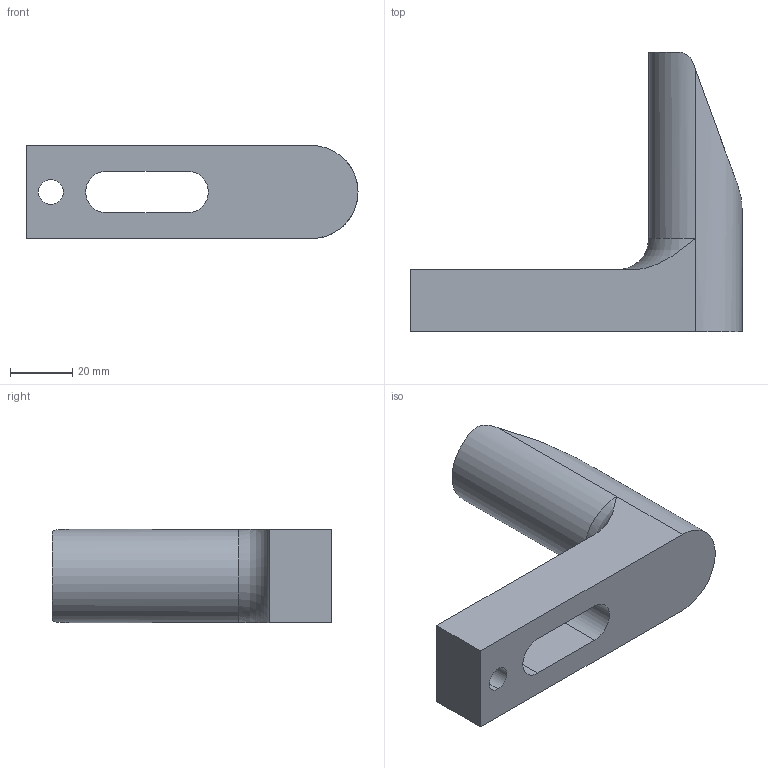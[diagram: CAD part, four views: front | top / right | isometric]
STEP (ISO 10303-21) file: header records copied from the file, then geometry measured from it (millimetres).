
FILE_DESCRIPTION(('CATIA V5 STEP Exchange'),'2;1');
FILE_NAME('C:\Users\Raffaele\Desktop\3D X SITO CF\702-705\90\STEP-2.03\702-3.stp','2019-07-03T14:05:07+00:00',('none'),('none'),'CATIA Version 5 Release 20 GA (IN-10)','CATIA V5 STEP AP203','none');
FILE_SCHEMA(('CONFIG_CONTROL_DESIGN'));
Length unit declared in the file: millimetre
Products named in the file (1): 702-3
Bounding box: 107 x 90 x 30 mm (x, y, z)
Volume: 93311.8 mm3; surface area: 18507.6 mm2
Topology: 1 solids, 1 shells, 18 faces, 52 edges, 36 vertices
Faces by surface type: plane 9, cylinder 8, torus 1
Entity records: 745 total; most frequent: CARTESIAN_POINT 236, ORIENTED_EDGE 104, DIRECTION 77, EDGE_CURVE 52, VERTEX_POINT 36, AXIS2_PLACEMENT_3D 35, VECTOR 25, LINE 25
